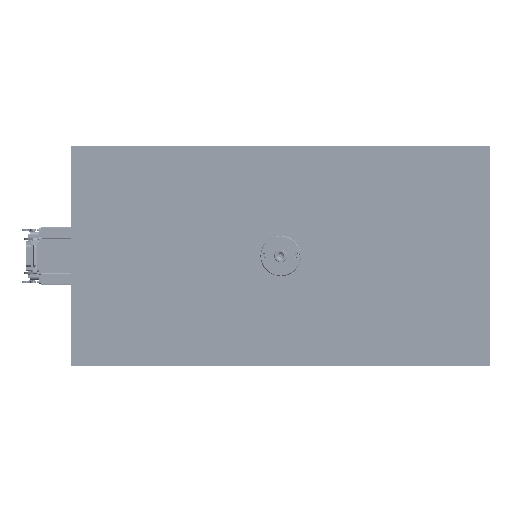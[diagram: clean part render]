
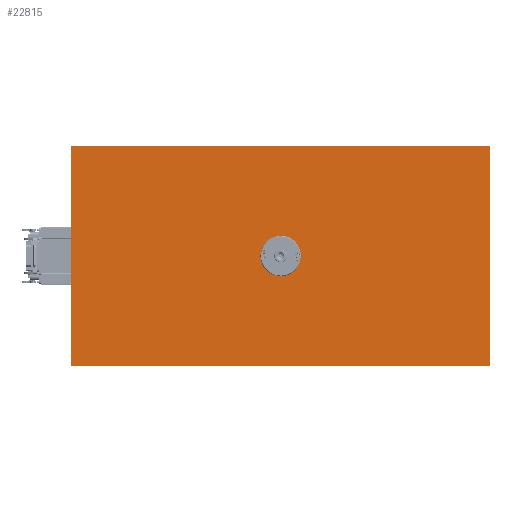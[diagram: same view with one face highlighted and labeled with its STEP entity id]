
A CAD part, top view. The second image highlights one B-rep face of the part: STEP entity #22815.
In plain terms, the highlighted planar face has unit normal (0, 0, 1).
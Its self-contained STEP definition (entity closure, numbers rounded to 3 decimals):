
#5288=FACE_BOUND('',#34946,.T.);
#5289=FACE_BOUND('',#34947,.T.);
#5290=FACE_BOUND('',#34948,.T.);
#5291=FACE_BOUND('',#34949,.T.);
#22815=ADVANCED_FACE('TOP',(#5288,#5289,#5290,#5291),#25312,.F.);
#25312=PLANE('',#94180);
#34946=EDGE_LOOP('',(#57554));
#34947=EDGE_LOOP('',(#57555));
#34948=EDGE_LOOP('',(#57556));
#34949=EDGE_LOOP('',(#57557,#57558,#57559,#57560));
#38107=CIRCLE('',#94177,3.334);
#38108=CIRCLE('',#94178,3.334);
#38109=CIRCLE('',#94179,36.55);
#57554=ORIENTED_EDGE('',*,*,#75525,.T.);
#57555=ORIENTED_EDGE('',*,*,#75526,.T.);
#57556=ORIENTED_EDGE('',*,*,#75527,.T.);
#57557=ORIENTED_EDGE('',*,*,#75519,.F.);
#57558=ORIENTED_EDGE('',*,*,#75528,.T.);
#57559=ORIENTED_EDGE('',*,*,#75529,.T.);
#57560=ORIENTED_EDGE('',*,*,#75523,.F.);
#65505=VERTEX_POINT('',#149326);
#65506=VERTEX_POINT('',#149327);
#65508=VERTEX_POINT('',#149334);
#65509=VERTEX_POINT('',#149338);
#65510=VERTEX_POINT('',#149340);
#65511=VERTEX_POINT('',#149342);
#65512=VERTEX_POINT('',#149344);
#75519=EDGE_CURVE('',#65505,#65506,#81384,.T.);
#75523=EDGE_CURVE('',#65506,#65508,#81387,.T.);
#75525=EDGE_CURVE('',#65509,#65509,#38107,.T.);
#75526=EDGE_CURVE('',#65510,#65510,#38108,.T.);
#75527=EDGE_CURVE('',#65511,#65511,#38109,.T.);
#75528=EDGE_CURVE('',#65505,#65512,#81389,.T.);
#75529=EDGE_CURVE('',#65512,#65508,#81390,.T.);
#81384=LINE('',#149325,#86955);
#81387=LINE('',#149333,#86958);
#81389=LINE('',#149343,#86960);
#81390=LINE('',#149345,#86961);
#86955=VECTOR('',#114025,1.);
#86958=VECTOR('',#114032,1.);
#86960=VECTOR('',#114042,1.);
#86961=VECTOR('',#114043,1.);
#94177=AXIS2_PLACEMENT_3D('',#149337,#114036,#114037);
#94178=AXIS2_PLACEMENT_3D('',#149339,#114038,#114039);
#94179=AXIS2_PLACEMENT_3D('',#149341,#114040,#114041);
#94180=AXIS2_PLACEMENT_3D('',#149346,#114044,#114045);
#114025=DIRECTION('',(1.,0.,0.));
#114032=DIRECTION('',(0.,-1.,0.));
#114036=DIRECTION('',(0.,0.,-1.));
#114037=DIRECTION('',(-1.,0.,0.));
#114038=DIRECTION('',(0.,0.,-1.));
#114039=DIRECTION('',(-1.,0.,0.));
#114040=DIRECTION('',(0.,0.,-1.));
#114041=DIRECTION('',(-1.,0.,0.));
#114042=DIRECTION('',(0.,-1.,0.));
#114043=DIRECTION('',(1.,0.,0.));
#114044=DIRECTION('',(0.,0.,-1.));
#114045=DIRECTION('',(-1.,0.,0.));
#149325=CARTESIAN_POINT('',(0.,275.,30.));
#149326=CARTESIAN_POINT('',(-525.,275.,30.));
#149327=CARTESIAN_POINT('',(525.,275.,30.));
#149333=CARTESIAN_POINT('',(525.,275.,30.));
#149334=CARTESIAN_POINT('',(525.,-275.,30.));
#149337=CARTESIAN_POINT('',(42.,0.,30.));
#149338=CARTESIAN_POINT('',(38.666,0.,30.));
#149339=CARTESIAN_POINT('',(-42.,0.,30.));
#149340=CARTESIAN_POINT('',(-45.334,0.,30.));
#149341=CARTESIAN_POINT('',(0.,0.,30.));
#149342=CARTESIAN_POINT('',(-36.55,0.,30.));
#149343=CARTESIAN_POINT('',(-525.,275.,30.));
#149344=CARTESIAN_POINT('',(-525.,-275.,30.));
#149345=CARTESIAN_POINT('',(0.,-275.,30.));
#149346=CARTESIAN_POINT('',(0.,0.,30.));
